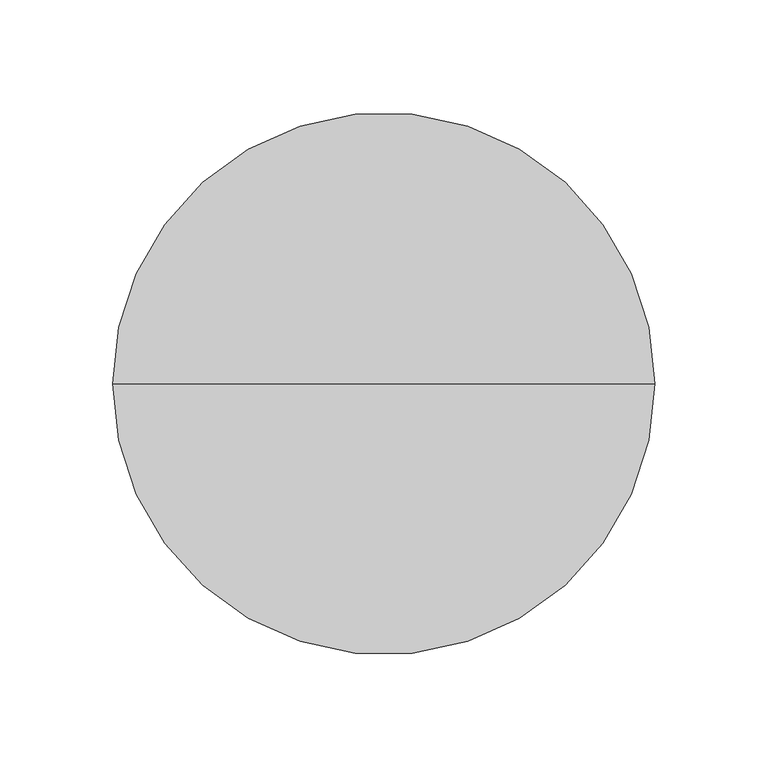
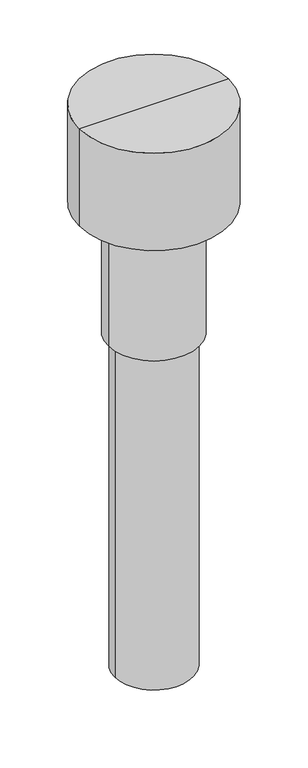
"""IFC4 building model written with IfcOpenShell, lengths in millimetres: air terminal geometry, NLRS_57_AIR_WPB_megavent roof ventilation terminals_M&G : PP Black, ø125."""

from ifc_helpers import new_model, si_unit, frame, origin, place, context, project, spatial, circle_curve, source, transform, mapped, element, save
from ifc_brep_helpers import plane_surface, cylinder_surface, advanced_brep


def air_terminal_5d0dc36f(model_context):
    return source(origin(), model_context, "Body", "AdvancedBrep", [
        advanced_brep(
        [(73.0, 0.0, 220.0), (-73.0, 0.0, 220.0), (0.0, 0.0, 220.0), (73.0, 0.0, 0.0), (-73.0, 0.0, 0.0), (0.0, 0.0, 0.0)],
        [
            (0, 1, circle_curve(frame((0.0, 0.0, 220.0), z_axis=(0.0, 0.0, 1.0), x_axis=(-1.0, 0.0, 0.0)), 73.0)),
            (1, 2),
            (2, 0),
            (1, 0, circle_curve(frame((0.0, 0.0, 220.0), z_axis=(0.0, 0.0, 1.0), x_axis=(-1.0, 0.0, 0.0)), 73.0)),
            (3, 4, circle_curve(frame((0.0, 0.0, 0.0), z_axis=(0.0, 0.0, 1.0), x_axis=(-1.0, 0.0, 0.0)), 73.0)),
            (4, 1),
            (0, 3),
            (4, 3, circle_curve(frame((0.0, 0.0, 0.0), z_axis=(0.0, 0.0, 1.0), x_axis=(-1.0, 0.0, 0.0)), 73.0)),
            (5, 4),
            (3, 5),
        ],
        [
            plane_surface(frame((0.0, 0.0, 220.0), z_axis=(0.0, 0.0, 1.0), x_axis=(-1.0, 0.0, 0.0))),
            cylinder_surface(frame((0.0, 0.0, 2132.3150031), z_axis=(0.0, 0.0, -1.0), x_axis=(-1.0, 0.0, 0.0)), 73.0),
            plane_surface(frame((0.0, 0.0, 0.0), z_axis=(0.0, 0.0, -1.0), x_axis=(-1.0, 0.0, 0.0))),
        ],
        [
            (0, [[1, 2, 3]]),
            (0, [[4, -3, -2]]),
            (1, [[5, 6, -1, 7]]),
            (1, [[8, -7, -4, -6]]),
            (2, [[9, -5, 10]]),
            (2, [[-10, -8, -9]]),
        ],
    ),
        advanced_brep(
        [(120.0, 0.0, 385.0), (-120.0, 0.0, 385.0), (0.0, 0.0, 385.0), (120.0, 0.0, 220.0), (-120.0, 0.0, 220.0), (0.0, 0.0, 220.0)],
        [
            (0, 1, circle_curve(frame((0.0, 0.0, 385.0), z_axis=(0.0, 0.0, 1.0), x_axis=(-1.0, 0.0, 0.0)), 120.0)),
            (1, 2),
            (2, 0),
            (1, 0, circle_curve(frame((0.0, 0.0, 385.0), z_axis=(0.0, 0.0, 1.0), x_axis=(-1.0, 0.0, 0.0)), 120.0)),
            (3, 4, circle_curve(frame((0.0, 0.0, 220.0), z_axis=(0.0, 0.0, 1.0), x_axis=(-1.0, 0.0, 0.0)), 120.0)),
            (4, 1),
            (0, 3),
            (4, 3, circle_curve(frame((0.0, 0.0, 220.0), z_axis=(0.0, 0.0, 1.0), x_axis=(-1.0, 0.0, 0.0)), 120.0)),
            (5, 4),
            (3, 5),
        ],
        [
            plane_surface(frame((0.0, 0.0, 385.0), z_axis=(0.0, 0.0, 1.0), x_axis=(-1.0, 0.0, 0.0))),
            cylinder_surface(frame((0.0, 0.0, 2132.3150031), z_axis=(0.0, 0.0, -1.0), x_axis=(-1.0, 0.0, 0.0)), 120.0),
            plane_surface(frame((0.0, 0.0, 220.0), z_axis=(0.0, 0.0, -1.0), x_axis=(-1.0, 0.0, 0.0))),
        ],
        [
            (0, [[1, 2, 3]]),
            (0, [[4, -3, -2]]),
            (1, [[5, 6, -1, 7]]),
            (1, [[8, -7, -4, -6]]),
            (2, [[9, -5, 10]]),
            (2, [[-10, -8, -9]]),
        ],
    ),
        advanced_brep(
        [(62.5, 0.0, -565.0), (-62.5, 0.0, -565.0), (-62.5, 0.0, 0.0), (62.5, 0.0, 0.0), (0.0, 0.0, -565.0), (0.0, 0.0, 0.0)],
        [
            (0, 1, circle_curve(frame((0.0, 0.0, -565.0), z_axis=(0.0, 0.0, 1.0), x_axis=(-1.0, 0.0, 0.0)), 62.5)),
            (1, 2),
            (2, 3, circle_curve(frame((0.0, 0.0, 0.0), z_axis=(0.0, 0.0, -1.0), x_axis=(-1.0, 0.0, 0.0)), 62.5)),
            (3, 0),
            (1, 0, circle_curve(frame((0.0, 0.0, -565.0), z_axis=(0.0, 0.0, 1.0), x_axis=(-1.0, 0.0, 0.0)), 62.5)),
            (3, 2, circle_curve(frame((0.0, 0.0, 0.0), z_axis=(0.0, 0.0, -1.0), x_axis=(-1.0, 0.0, 0.0)), 62.5)),
            (4, 1),
            (0, 4),
            (2, 5),
            (5, 3),
        ],
        [
            cylinder_surface(frame((0.0, 0.0, 2132.3150031), z_axis=(0.0, 0.0, -1.0), x_axis=(-1.0, 0.0, 0.0)), 62.5),
            plane_surface(frame((0.0, 0.0, -565.0), z_axis=(0.0, 0.0, -1.0), x_axis=(-1.0, 0.0, 0.0))),
            plane_surface(frame((0.0, 0.0, 0.0), z_axis=(0.0, 0.0, 1.0), x_axis=(-1.0, 0.0, 0.0))),
        ],
        [
            (0, [[1, 2, 3, 4]]),
            (0, [[5, -4, 6, -2]]),
            (1, [[7, -1, 8]]),
            (1, [[-8, -5, -7]]),
            (2, [[-3, 9, 10]]),
            (2, [[-6, -10, -9]]),
        ],
    ),
    ])


if __name__ == "__main__":
    model = new_model("IFC4")
    model_context = context("Model", 3, world=origin())
    ifc_project = project(units=[si_unit("LENGTHUNIT", "METRE", prefix="MILLI")], contexts=[model_context])
    site = spatial("IfcSite", under=ifc_project)
    building = spatial("IfcBuilding", under=site)
    placement = place(None, origin())
    air_terminal_shape = air_terminal_5d0dc36f(model_context)
    element("IfcAirTerminal", 1, ObjectType="NLRS_57_AIR_WPB_megavent roof ventilation terminals_M&G : PP Black, ø125", at=placement, inside=building, context=model_context, shape_type="MappedRepresentation", body=[
        mapped(air_terminal_shape, transform((0.0, 0.0, 0.0), x_axis=(1.0, 0.0, 0.0), y_axis=(0.0, 1.0, 0.0), z_axis=(0.0, 0.0, 1.0))),
    ])
    save(model, "model.ifc")
